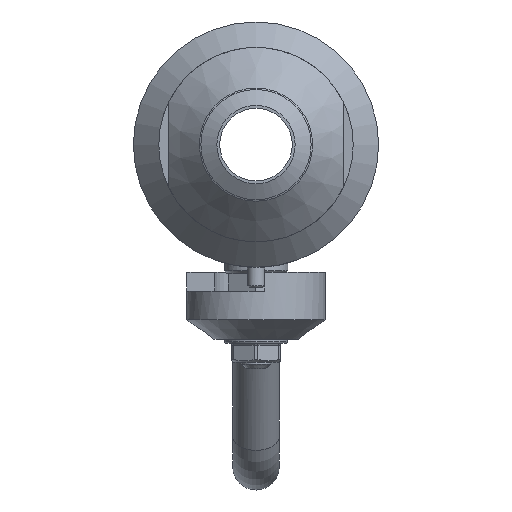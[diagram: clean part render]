
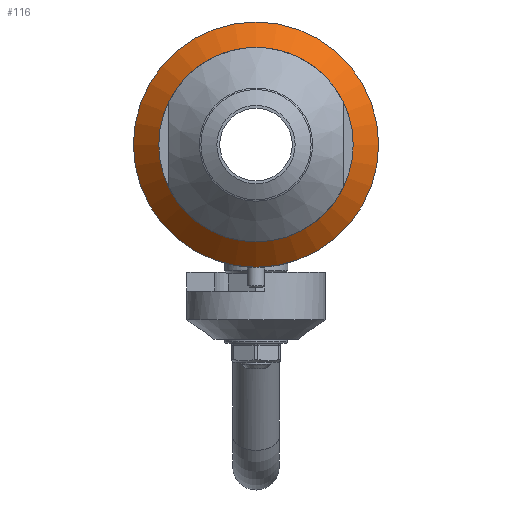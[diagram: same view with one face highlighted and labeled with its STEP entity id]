
A CAD part, left-side view. The second image highlights one B-rep face of the part: STEP entity #116.
In plain terms, the highlighted conical face has half-angle 45 degrees and reference radius 37.875 mm.
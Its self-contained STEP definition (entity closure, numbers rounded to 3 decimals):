
#116=ADVANCED_FACE('',(#1043),#1045,.T.);
#1043=FACE_OUTER_BOUND('',#1044,.T.);
#1044=EDGE_LOOP('',(#1997,#1998,#1999,#2000,#2001));
#1045=CONICAL_SURFACE('',#1046,37.875,0.785);
#1046=AXIS2_PLACEMENT_3D('',#1047,#1048,#1049);
#1047=CARTESIAN_POINT('',(-34.625,0.,0.));
#1048=DIRECTION('',(1.,0.,0.));
#1049=DIRECTION('',(0.,1.,0.));
#1997=ORIENTED_EDGE('',*,*,#3103,.F.);
#1998=ORIENTED_EDGE('',*,*,#3104,.T.);
#1999=ORIENTED_EDGE('',*,*,#3091,.T.);
#2000=ORIENTED_EDGE('',*,*,#3104,.F.);
#2001=ORIENTED_EDGE('',*,*,#3105,.F.);
#3091=EDGE_CURVE('',#3365,#3365,#3367,.T.);
#3103=EDGE_CURVE('',#3383,#3384,#3385,.T.);
#3104=EDGE_CURVE('',#3383,#3365,#3386,.T.);
#3105=EDGE_CURVE('',#3384,#3383,#3387,.T.);
#3365=VERTEX_POINT('',#4298);
#3367=CIRCLE('',#4302,42.25);
#3383=VERTEX_POINT('',#4453);
#3384=VERTEX_POINT('',#4454);
#3385=CIRCLE('',#4455,33.5);
#3386=LINE('',#4459,#4460);
#3387=CIRCLE('',#4462,33.5);
#4298=CARTESIAN_POINT('',(-30.25,-42.25,0.));
#4302=AXIS2_PLACEMENT_3D('',#4303,#4304,#4305);
#4303=CARTESIAN_POINT('',(-30.25,0.,0.));
#4304=DIRECTION('',(-1.,0.,0.));
#4305=DIRECTION('',(0.,-1.,0.));
#4453=CARTESIAN_POINT('',(-39.,-33.5,0.));
#4454=CARTESIAN_POINT('',(-39.,0.,-33.5));
#4455=AXIS2_PLACEMENT_3D('',#4456,#4457,#4458);
#4456=CARTESIAN_POINT('',(-39.,0.,0.));
#4457=DIRECTION('',(-1.,0.,0.));
#4458=DIRECTION('',(0.,-1.,0.));
#4459=CARTESIAN_POINT('',(-39.,-33.5,0.));
#4460=VECTOR('',#4461,1.);
#4461=DIRECTION('',(0.707,-0.707,0.));
#4462=AXIS2_PLACEMENT_3D('',#4463,#4464,#4465);
#4463=CARTESIAN_POINT('',(-39.,0.,0.));
#4464=DIRECTION('',(-1.,0.,0.));
#4465=DIRECTION('',(0.,0.,-1.));
